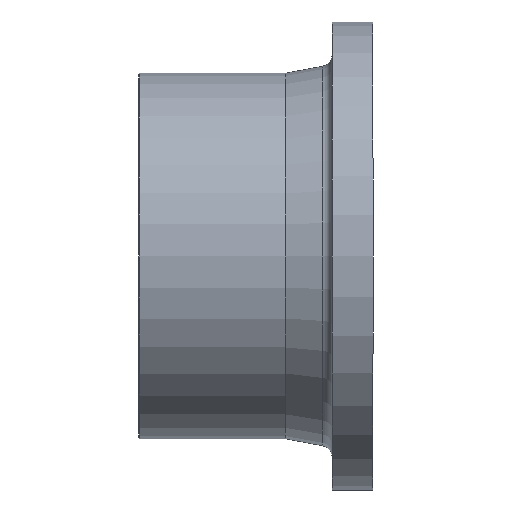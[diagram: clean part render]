
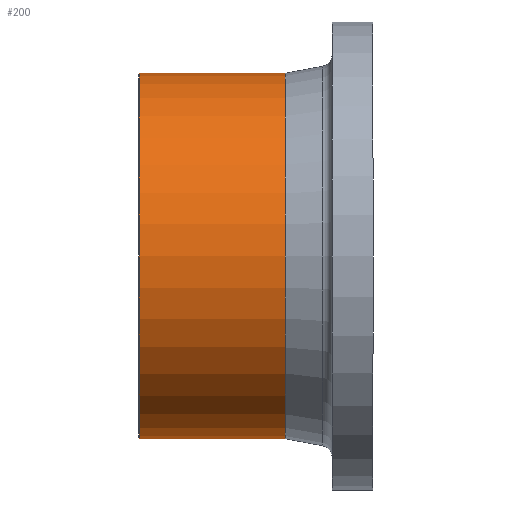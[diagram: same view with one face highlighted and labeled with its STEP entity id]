
A CAD part, front view. The second image highlights one B-rep face of the part: STEP entity #200.
In plain terms, the highlighted cylindrical face has radius 62.5 mm (diameter 125 mm), a full revolution.
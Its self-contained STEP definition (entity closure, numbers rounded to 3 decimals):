
#26=FACE_BOUND($,#61,.T.);
#47=FACE_OUTER_BOUND($,#60,.T.);
#60=EDGE_LOOP($,(#145));
#61=EDGE_LOOP($,(#146));
#94=CIRCLE($,#221,62.5);
#95=CIRCLE($,#222,62.5);
#111=VERTEX_POINT($,#326);
#112=VERTEX_POINT($,#328);
#128=EDGE_CURVE($,#111,#111,#94,.T.);
#129=EDGE_CURVE($,#112,#112,#95,.T.);
#145=ORIENTED_EDGE($,*,*,#128,.F.);
#146=ORIENTED_EDGE($,*,*,#129,.T.);
#179=CYLINDRICAL_SURFACE($,#220,62.5);
#200=ADVANCED_FACE($,(#47,#26),#179,.T.);
#220=AXIS2_PLACEMENT_3D($,#325,#256,#257);
#221=AXIS2_PLACEMENT_3D($,#327,#258,#259);
#222=AXIS2_PLACEMENT_3D($,#329,#260,#261);
#256=DIRECTION('center_axis',(1.,0.,0.));
#257=DIRECTION('ref_axis',(0.,1.,0.));
#258=DIRECTION('center_axis',(1.,0.,0.));
#259=DIRECTION('ref_axis',(0.,1.,0.));
#260=DIRECTION('center_axis',(1.,0.,0.));
#261=DIRECTION('ref_axis',(0.,1.,0.));
#325=CARTESIAN_POINT('Origin',(25.,0.,0.));
#326=CARTESIAN_POINT('',(50.,62.5,0.));
#327=CARTESIAN_POINT('Origin',(50.,0.,0.));
#328=CARTESIAN_POINT('',(0.,62.5,0.));
#329=CARTESIAN_POINT('Origin',(0.,0.,
0.));
